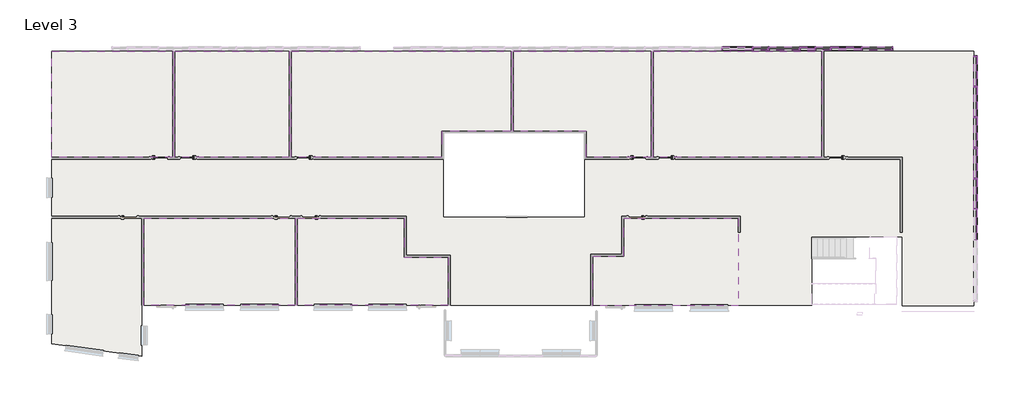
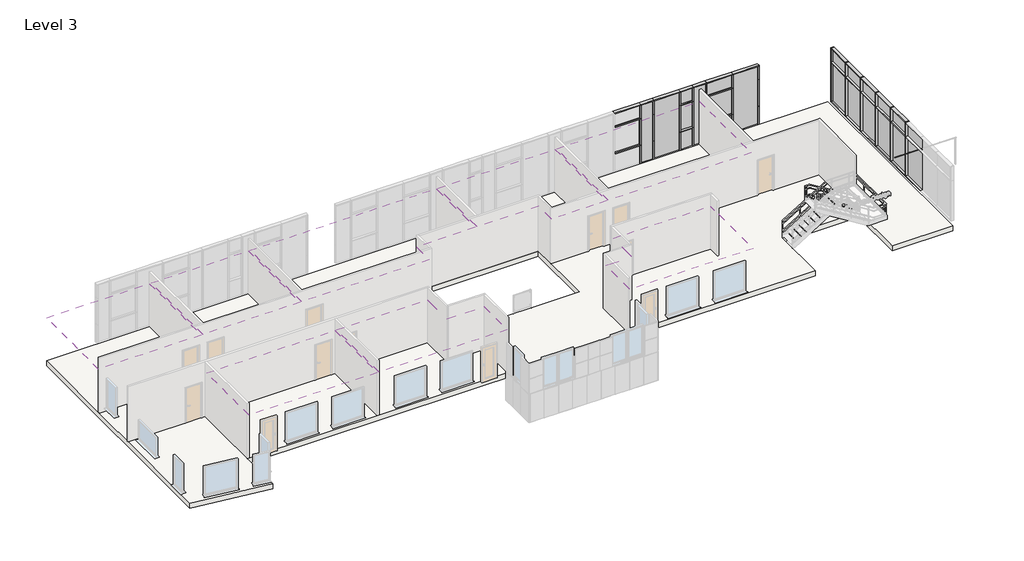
# One storey, part 4 of 7: 62 members, 22 plates, 8 coverings, 1 slab.
"""IFC4 building model written with IfcOpenShell, lengths in millimetres."""

from ifc_helpers import new_model, si_unit, frame, origin, place, context, project, spatial, polyline, outline, extrude, transform, mapped, element, save
from components import rectangular_mullion_50x180mm_27940352, rectangular_mullion_50x180mm_f781141c, rectangular_mullion_50x180mm_fd91253e, rectangular_mullion_50x180mm_cfc9efda, rectangular_mullion_50x180mm_c30fec06, rectangular_mullion_50x180mm_55b63a96, rectangular_mullion_50x180mm_95299f7d, rectangular_mullion_50x180mm_7153291d, rectangular_mullion_50x180mm_cd79a6a2, rectangular_mullion_50x180mm_b21090a6, rectangular_mullion_50x180mm_bfae1b57, rectangular_mullion_50x180mm_1c28dd9e, rectangular_mullion_50x180mm_1be9a22b, rectangular_mullion_50x180mm_9c6cddf7, rectangular_mullion_50x180mm_ee9895d7, rectangular_mullion_50x180mm_6af64579, rectangular_mullion_50x180mm_418feb2d, rectangular_mullion_50x180mm_9c451c64, rectangular_mullion_50x180mm_3562f263, system_panel_black_panel_b553a8d2, system_panel_dark_grey_panel_97f951a3, system_panel_dark_grey_panel_4b19a003, system_panel_glazed_dd63f223, system_panel_glazed_4915e1a0, system_panel_glazed_206f5d08, system_panel_glazed_7f1c0332, system_panel_glazed_28d323ef, system_panel_glazed_0488a078, system_panel_glazed_324ac287, system_panel_glazed_37b19665, system_panel_white_panel_6a64f577, system_panel_white_panel_a9ca731a, system_panel_white_panel_dc489aa2, system_panel_white_panel_659cbcf8

model = new_model("IFC4")

# Units and contexts
model_context = context("Model", 3, world=origin())
ifc_project = project(units=[si_unit("LENGTHUNIT", "METRE", prefix="MILLI")], contexts=[model_context])

# Site, building, storey
site = spatial("IfcSite", under=ifc_project)
building = spatial("IfcBuilding", under=site)
storey = spatial("IfcBuildingStorey", under=building, Name="Level 3", Elevation=11000.0)

# Coverings
placement = place(None, origin())
element("IfcCovering", 1, ObjectType="600x600mm_Grid", at=placement, inside=storey, context=model_context, shape_type="SweptSolid", body=[
    extrude(outline(polyline([(-1429.2223222, 3884.8025486), (-1429.2223222, 9007.4946591), (4433.2942367, 9007.4946591), (4433.2942367, 3884.8025486), (-1429.2223222, 3884.8025486)])), frame((0.0, 0.0, 13600.0), z_axis=(0.0, 0.0, 1.0), x_axis=(1.0, 0.0, 0.0)), (0.0, 0.0, 1.0), 52.0),
])
element("IfcCovering", 2, ObjectType="600x600mm_Grid", at=placement, inside=storey, context=model_context, shape_type="SweptSolid", body=[
    extrude(outline(polyline([(4528.2942367, 9007.4946591), (10058.2942367, 9007.4946591), (10058.2942367, 3884.8025486), (4528.2942367, 3884.8025486), (4528.2942367, 9007.4946591)])), frame((0.0, 0.0, 13600.0), z_axis=(0.0, 0.0, 1.0), x_axis=(1.0, 0.0, 0.0)), (0.0, 0.0, 1.0), 52.0),
])
element("IfcCovering", 3, ObjectType="600x600mm_Grid", at=placement, inside=storey, context=model_context, shape_type="SweptSolid", body=[
    extrude(outline(polyline([(10153.2942367, 9007.4946591), (20770.7942367, 9007.4946591), (20770.7942367, 5143.5025486), (17410.7942367, 5143.5025486), (17410.7942367, 3884.8025486), (10153.2942367, 3884.8025486), (10153.2942367, 9007.4946591)])), frame((0.0, 0.0, 13600.0), z_axis=(0.0, 0.0, 1.0), x_axis=(1.0, 0.0, 0.0)), (0.0, 0.0, 1.0), 52.0),
])
element("IfcCovering", 4, ObjectType="600x600mm_Grid", at=placement, inside=storey, context=model_context, shape_type="SweptSolid", body=[
    extrude(outline(polyline([(20865.7942367, 9007.4946591), (27533.2942367, 9007.4946591), (27533.2942367, 3884.8025486), (24393.2942367, 3884.8025486), (24393.2942367, 5143.5025486), (20865.7942367, 5143.5025486), (20865.7942367, 9007.4946591)])), frame((0.0, 0.0, 13600.0), z_axis=(0.0, 0.0, 1.0), x_axis=(1.0, 0.0, 0.0)), (0.0, 0.0, 1.0), 52.0),
])
element("IfcCovering", 5, ObjectType="600x600mm_Grid", at=placement, inside=storey, context=model_context, shape_type="SweptSolid", body=[
    extrude(outline(polyline([(27628.2942367, 9007.4946591), (35770.7942367, 9007.4946591), (35770.7942367, 3884.8025486), (27628.2942367, 3884.8025486), (27628.2942367, 9007.4946591)])), frame((0.0, 0.0, 13600.0), z_axis=(0.0, 0.0, 1.0), x_axis=(1.0, 0.0, 0.0)), (0.0, 0.0, 1.0), 52.0),
])
element("IfcCovering", 6, ObjectType="600x600mm_Grid", at=placement, inside=storey, context=model_context, shape_type="SweptSolid", body=[
    extrude(outline(polyline([(31736.4942371, 149.3025492), (31736.4942371, -3285.0053409), (24710.7942367, -3285.0053409), (24710.7942367, -895.6472731), (26193.2942367, -895.6472731), (26193.2942367, 939.9946591), (31736.4942371, 939.9946591), (31736.4942371, 149.3025492)])), frame((0.0, 0.0, 13600.0), z_axis=(0.0, 0.0, 1.0), x_axis=(1.0, 0.0, 0.0)), (0.0, 0.0, 1.0), 52.0),
])
element("IfcCovering", 7, ObjectType="600x600mm_Grid", at=placement, inside=storey, context=model_context, shape_type="SweptSolid", body=[
    extrude(outline(polyline([(17735.7942367, -3259.5053409), (10430.7942367, -3259.5053409), (10430.7942367, 939.9946591), (15610.7942367, 939.9946591), (15610.7942367, -955.0053409), (17735.7942367, -955.0053409), (17735.7942367, -3259.5053409)])), frame((0.0, 0.0, 13600.0), z_axis=(0.0, 0.0, 1.0), x_axis=(1.0, 0.0, 0.0)), (0.0, 0.0, 1.0), 52.0),
])
element("IfcCovering", 8, ObjectType="600x600mm_Grid", at=placement, inside=storey, context=model_context, shape_type="SweptSolid", body=[
    extrude(outline(polyline([(10335.7942367, 939.9946591), (10335.7942367, -3259.5053409), (3030.7942367, -3259.5053409), (3030.7942367, 939.9946591), (10335.7942367, 939.9946591)])), frame((0.0, 0.0, 13600.0), z_axis=(0.0, 0.0, 1.0), x_axis=(1.0, 0.0, 0.0)), (0.0, 0.0, 1.0), 52.0),
])

# Members
rectangular_mullion_50x180mm_shape = rectangular_mullion_50x180mm_27940352(model_context)
element("IfcMember", 9, ObjectType="Rectangular Mullion : 50x180mm", at=placement, inside=storey, context=model_context, shape_type="MappedRepresentation", body=[
    mapped(rectangular_mullion_50x180mm_shape, transform((37693.2942367, 9132.4946591, 11000.0), x_axis=(1.0, 0.0, 0.0), y_axis=(0.0, -1.0, 0.0), z_axis=(0.0, 0.0, -1.0))),
])
element("IfcMember", 10, ObjectType="Rectangular Mullion : 50x180mm", at=placement, inside=storey, context=model_context, shape_type="MappedRepresentation", body=[
    mapped(rectangular_mullion_50x180mm_shape, transform((36193.2942367, 9132.4946591, 11000.0), x_axis=(1.0, 0.0, 0.0), y_axis=(0.0, -1.0, 0.0), z_axis=(0.0, 0.0, -1.0))),
])
element("IfcMember", 11, ObjectType="Rectangular Mullion : 50x180mm", at=placement, inside=storey, context=model_context, shape_type="MappedRepresentation", body=[
    mapped(rectangular_mullion_50x180mm_shape, transform((35443.2942367, 9132.4946591, 11000.0), x_axis=(1.0, 0.0, 0.0), y_axis=(0.0, -1.0, 0.0), z_axis=(0.0, 0.0, -1.0))),
])
element("IfcMember", 12, ObjectType="Rectangular Mullion : 50x180mm", at=placement, inside=storey, context=model_context, shape_type="MappedRepresentation", body=[
    mapped(rectangular_mullion_50x180mm_shape, transform((34693.2942367, 9132.4946591, 11000.0), x_axis=(1.0, 0.0, 0.0), y_axis=(0.0, -1.0, 0.0), z_axis=(0.0, 0.0, -1.0))),
])
element("IfcMember", 13, ObjectType="Rectangular Mullion : 50x180mm", at=placement, inside=storey, context=model_context, shape_type="MappedRepresentation", body=[
    mapped(rectangular_mullion_50x180mm_shape, transform((32443.2942367, 9132.4946591, 11000.0), x_axis=(1.0, 0.0, 0.0), y_axis=(0.0, -1.0, 0.0), z_axis=(0.0, 0.0, -1.0))),
])
element("IfcMember", 14, ObjectType="Rectangular Mullion : 50x180mm", at=placement, inside=storey, context=model_context, shape_type="MappedRepresentation", body=[
    mapped(rectangular_mullion_50x180mm_shape, transform((33193.2942367, 9132.4946591, 11000.0), x_axis=(1.0, 0.0, 0.0), y_axis=(0.0, -1.0, 0.0), z_axis=(0.0, 0.0, -1.0))),
])
rectangular_mullion_50x180mm_2_shape = rectangular_mullion_50x180mm_f781141c(model_context)
element("IfcMember", 15, ObjectType="Rectangular Mullion : 50x180mm", at=placement, inside=storey, context=model_context, shape_type="MappedRepresentation", body=[
    mapped(rectangular_mullion_50x180mm_2_shape, transform((32443.2942367, 9132.4946591, 12100.0), x_axis=(1.0, 0.0, 0.0), y_axis=(0.0, -1.0, 0.0), z_axis=(0.0, 0.0, -1.0))),
])
element("IfcMember", 16, ObjectType="Rectangular Mullion : 50x180mm", at=placement, inside=storey, context=model_context, shape_type="MappedRepresentation", body=[
    mapped(rectangular_mullion_50x180mm_2_shape, transform((34693.2942367, 9132.4946591, 12100.0), x_axis=(1.0, 0.0, 0.0), y_axis=(0.0, -1.0, 0.0), z_axis=(0.0, 0.0, -1.0))),
])
element("IfcMember", 17, ObjectType="Rectangular Mullion : 50x180mm", at=placement, inside=storey, context=model_context, shape_type="MappedRepresentation", body=[
    mapped(rectangular_mullion_50x180mm_2_shape, transform((35443.2942367, 9132.4946591, 12100.0), x_axis=(1.0, 0.0, 0.0), y_axis=(0.0, -1.0, 0.0), z_axis=(0.0, 0.0, -1.0))),
])
element("IfcMember", 18, ObjectType="Rectangular Mullion : 50x180mm", at=placement, inside=storey, context=model_context, shape_type="MappedRepresentation", body=[
    mapped(rectangular_mullion_50x180mm_2_shape, transform((36193.2942367, 9132.4946591, 12100.0), x_axis=(1.0, 0.0, 0.0), y_axis=(0.0, -1.0, 0.0), z_axis=(0.0, 0.0, -1.0))),
])
element("IfcMember", 19, ObjectType="Rectangular Mullion : 50x180mm", at=placement, inside=storey, context=model_context, shape_type="MappedRepresentation", body=[
    mapped(rectangular_mullion_50x180mm_2_shape, transform((37693.2942367, 9132.4946591, 12100.0), x_axis=(1.0, 0.0, 0.0), y_axis=(0.0, -1.0, 0.0), z_axis=(0.0, 0.0, -1.0))),
])
element("IfcMember", 20, ObjectType="Rectangular Mullion : 50x180mm", at=placement, inside=storey, context=model_context, shape_type="MappedRepresentation", body=[
    mapped(rectangular_mullion_50x180mm_2_shape, transform((33193.2942367, 9132.4946591, 12100.0), x_axis=(1.0, 0.0, 0.0), y_axis=(0.0, -1.0, 0.0), z_axis=(0.0, 0.0, -1.0))),
])
rectangular_mullion_50x180mm_3_shape = rectangular_mullion_50x180mm_fd91253e(model_context)
element("IfcMember", 21, ObjectType="Rectangular Mullion : 50x180mm", at=placement, inside=storey, context=model_context, shape_type="MappedRepresentation", body=[
    mapped(rectangular_mullion_50x180mm_3_shape, transform((37668.2942367, 9132.4946591, 12100.0), x_axis=(0.0, 0.0, 1.0), y_axis=(0.0, -1.0, 0.0), z_axis=(1.0, 0.0, 0.0))),
])
element("IfcMember", 22, ObjectType="Rectangular Mullion : 50x180mm", at=placement, inside=storey, context=model_context, shape_type="MappedRepresentation", body=[
    mapped(rectangular_mullion_50x180mm_3_shape, transform((37668.2942367, 9132.4946591, 13700.0), x_axis=(0.0, 0.0, 1.0), y_axis=(0.0, -1.0, 0.0), z_axis=(1.0, 0.0, 0.0))),
])
element("IfcMember", 23, ObjectType="Rectangular Mullion : 50x180mm", at=placement, inside=storey, context=model_context, shape_type="MappedRepresentation", body=[
    mapped(rectangular_mullion_50x180mm_3_shape, transform((32418.2942367, 9132.4946591, 12100.0), x_axis=(0.0, 0.0, 1.0), y_axis=(0.0, -1.0, 0.0), z_axis=(1.0, 0.0, 0.0))),
])
element("IfcMember", 24, ObjectType="Rectangular Mullion : 50x180mm", at=placement, inside=storey, context=model_context, shape_type="MappedRepresentation", body=[
    mapped(rectangular_mullion_50x180mm_3_shape, transform((32418.2942367, 9132.4946591, 13700.0), x_axis=(0.0, 0.0, 1.0), y_axis=(0.0, -1.0, 0.0), z_axis=(1.0, 0.0, 0.0))),
])
rectangular_mullion_50x180mm_4_shape = rectangular_mullion_50x180mm_cfc9efda(model_context)
element("IfcMember", 25, ObjectType="Rectangular Mullion : 50x180mm", at=placement, inside=storey, context=model_context, shape_type="MappedRepresentation", body=[
    mapped(rectangular_mullion_50x180mm_4_shape, transform((35418.2942367, 9132.4946591, 13700.0), x_axis=(0.0, 0.0, 1.0), y_axis=(0.0, -1.0, 0.0), z_axis=(1.0, 0.0, 0.0))),
])
element("IfcMember", 26, ObjectType="Rectangular Mullion : 50x180mm", at=placement, inside=storey, context=model_context, shape_type="MappedRepresentation", body=[
    mapped(rectangular_mullion_50x180mm_4_shape, transform((35418.2942367, 9132.4946591, 12100.0), x_axis=(0.0, 0.0, 1.0), y_axis=(0.0, -1.0, 0.0), z_axis=(1.0, 0.0, 0.0))),
])
rectangular_mullion_50x180mm_5_shape = rectangular_mullion_50x180mm_c30fec06(model_context)
element("IfcMember", 27, ObjectType="Rectangular Mullion : 50x180mm", at=placement, inside=storey, context=model_context, shape_type="MappedRepresentation", body=[
    mapped(rectangular_mullion_50x180mm_5_shape, transform((32443.2942367, 9132.4946591, 14550.0), x_axis=(0.0, 0.0, 1.0), y_axis=(0.0, -1.0, 0.0), z_axis=(1.0, 0.0, 0.0))),
])
element("IfcMember", 28, ObjectType="Rectangular Mullion : 50x180mm", at=placement, inside=storey, context=model_context, shape_type="MappedRepresentation", body=[
    mapped(rectangular_mullion_50x180mm_5_shape, transform((34693.2942367, 9132.4946591, 14550.0), x_axis=(0.0, 0.0, 1.0), y_axis=(0.0, -1.0, 0.0), z_axis=(1.0, 0.0, 0.0))),
])
element("IfcMember", 29, ObjectType="Rectangular Mullion : 50x180mm", at=placement, inside=storey, context=model_context, shape_type="MappedRepresentation", body=[
    mapped(rectangular_mullion_50x180mm_5_shape, transform((37693.2942367, 9132.4946591, 14550.0), x_axis=(0.0, 0.0, 1.0), y_axis=(0.0, -1.0, 0.0), z_axis=(1.0, 0.0, 0.0))),
])
rectangular_mullion_50x180mm_6_shape = rectangular_mullion_50x180mm_55b63a96(model_context)
element("IfcMember", 30, ObjectType="Rectangular Mullion : 50x180mm", at=placement, inside=storey, context=model_context, shape_type="MappedRepresentation", body=[
    mapped(rectangular_mullion_50x180mm_6_shape, transform((33193.2942367, 9132.4946591, 14550.0), x_axis=(0.0, 0.0, 1.0), y_axis=(0.0, -1.0, 0.0), z_axis=(1.0, 0.0, 0.0))),
])
element("IfcMember", 31, ObjectType="Rectangular Mullion : 50x180mm", at=placement, inside=storey, context=model_context, shape_type="MappedRepresentation", body=[
    mapped(rectangular_mullion_50x180mm_6_shape, transform((35443.2942367, 9132.4946591, 14550.0), x_axis=(0.0, 0.0, 1.0), y_axis=(0.0, -1.0, 0.0), z_axis=(1.0, 0.0, 0.0))),
])
element("IfcMember", 32, ObjectType="Rectangular Mullion : 50x180mm", at=placement, inside=storey, context=model_context, shape_type="MappedRepresentation", body=[
    mapped(rectangular_mullion_50x180mm_6_shape, transform((36193.2942367, 9132.4946591, 14550.0), x_axis=(0.0, 0.0, 1.0), y_axis=(0.0, -1.0, 0.0), z_axis=(1.0, 0.0, 0.0))),
])
element("IfcMember", 33, ObjectType="Rectangular Mullion : 50x180mm", at=placement, inside=storey, context=model_context, shape_type="MappedRepresentation", body=[
    mapped(rectangular_mullion_50x180mm_5_shape, transform((39193.2942367, 9132.4946591, 14550.0), x_axis=(0.0, 0.0, 1.0), y_axis=(0.0, -1.0, 0.0), z_axis=(1.0, 0.0, 0.0))),
])
rectangular_mullion_50x180mm_7_shape = rectangular_mullion_50x180mm_95299f7d(model_context)
element("IfcMember", 34, ObjectType="Rectangular Mullion : 50x180mm", at=placement, inside=storey, context=model_context, shape_type="MappedRepresentation", body=[
    mapped(rectangular_mullion_50x180mm_7_shape, transform((39193.2942367, 9132.4946591, 12100.0), x_axis=(1.0, 0.0, 0.0), y_axis=(0.0, -1.0, 0.0), z_axis=(0.0, 0.0, -1.0))),
])
rectangular_mullion_50x180mm_8_shape = rectangular_mullion_50x180mm_7153291d(model_context)
element("IfcMember", 35, ObjectType="Rectangular Mullion : 50x180mm", at=placement, inside=storey, context=model_context, shape_type="MappedRepresentation", body=[
    mapped(rectangular_mullion_50x180mm_8_shape, transform((39193.2942367, 9132.4946591, 11000.0), x_axis=(1.0, 0.0, 0.0), y_axis=(0.0, -1.0, 0.0), z_axis=(0.0, 0.0, -1.0))),
])
rectangular_mullion_50x180mm_9_shape = rectangular_mullion_50x180mm_cd79a6a2(model_context)
element("IfcMember", 36, ObjectType="Rectangular Mullion : 50x180mm", at=placement, inside=storey, context=model_context, shape_type="MappedRepresentation", body=[
    mapped(rectangular_mullion_50x180mm_9_shape, transform((43193.2942367, 7289.6821589, 11150.0), x_axis=(0.0, -1.0, 0.0), y_axis=(-1.0, 0.0, 0.0), z_axis=(0.0, 0.0, -1.0))),
])
element("IfcMember", 37, ObjectType="Rectangular Mullion : 50x180mm", at=placement, inside=storey, context=model_context, shape_type="MappedRepresentation", body=[
    mapped(rectangular_mullion_50x180mm_9_shape, transform((43193.2942367, 5806.869659, 11150.0), x_axis=(0.0, -1.0, 0.0), y_axis=(-1.0, 0.0, 0.0), z_axis=(0.0, 0.0, -1.0))),
])
element("IfcMember", 38, ObjectType="Rectangular Mullion : 50x180mm", at=placement, inside=storey, context=model_context, shape_type="MappedRepresentation", body=[
    mapped(rectangular_mullion_50x180mm_9_shape, transform((43193.2942367, 4324.0571591, 11150.0), x_axis=(0.0, -1.0, 0.0), y_axis=(-1.0, 0.0, 0.0), z_axis=(0.0, 0.0, -1.0))),
])
element("IfcMember", 39, ObjectType="Rectangular Mullion : 50x180mm", at=placement, inside=storey, context=model_context, shape_type="MappedRepresentation", body=[
    mapped(rectangular_mullion_50x180mm_9_shape, transform((43193.2942367, 2841.2446591, 11150.0), x_axis=(0.0, -1.0, 0.0), y_axis=(-1.0, 0.0, 0.0), z_axis=(0.0, 0.0, -1.0))),
])
element("IfcMember", 40, ObjectType="Rectangular Mullion : 50x180mm", at=placement, inside=storey, context=model_context, shape_type="MappedRepresentation", body=[
    mapped(rectangular_mullion_50x180mm_9_shape, transform((43193.2942367, 1358.4321592, 11150.0), x_axis=(0.0, -1.0, 0.0), y_axis=(-1.0, 0.0, 0.0), z_axis=(0.0, 0.0, -1.0))),
])
rectangular_mullion_50x180mm_10_shape = rectangular_mullion_50x180mm_b21090a6(model_context)
element("IfcMember", 41, ObjectType="Rectangular Mullion : 50x180mm", at=placement, inside=storey, context=model_context, shape_type="MappedRepresentation", body=[
    mapped(rectangular_mullion_50x180mm_10_shape, transform((43193.2942367, 8772.4946591, 13550.0), x_axis=(0.0, 1.0, 0.0), y_axis=(-1.0, 0.0, 0.0), z_axis=(0.0, 0.0, 1.0))),
])
rectangular_mullion_50x180mm_11_shape = rectangular_mullion_50x180mm_bfae1b57(model_context)
element("IfcMember", 42, ObjectType="Rectangular Mullion : 50x180mm", at=placement, inside=storey, context=model_context, shape_type="MappedRepresentation", body=[
    mapped(rectangular_mullion_50x180mm_11_shape, transform((34693.2942367, 9132.4946591, 13700.0), x_axis=(1.0, 0.0, 0.0), y_axis=(0.0, -1.0, 0.0), z_axis=(0.0, 0.0, -1.0))),
])
element("IfcMember", 43, ObjectType="Rectangular Mullion : 50x180mm", at=placement, inside=storey, context=model_context, shape_type="MappedRepresentation", body=[
    mapped(rectangular_mullion_50x180mm_11_shape, transform((35443.2942367, 9132.4946591, 13700.0), x_axis=(1.0, 0.0, 0.0), y_axis=(0.0, -1.0, 0.0), z_axis=(0.0, 0.0, -1.0))),
])
element("IfcMember", 44, ObjectType="Rectangular Mullion : 50x180mm", at=placement, inside=storey, context=model_context, shape_type="MappedRepresentation", body=[
    mapped(rectangular_mullion_50x180mm_11_shape, transform((36193.2942367, 9132.4946591, 13700.0), x_axis=(1.0, 0.0, 0.0), y_axis=(0.0, -1.0, 0.0), z_axis=(0.0, 0.0, -1.0))),
])
element("IfcMember", 45, ObjectType="Rectangular Mullion : 50x180mm", at=placement, inside=storey, context=model_context, shape_type="MappedRepresentation", body=[
    mapped(rectangular_mullion_50x180mm_11_shape, transform((37693.2942367, 9132.4946591, 13700.0), x_axis=(1.0, 0.0, 0.0), y_axis=(0.0, -1.0, 0.0), z_axis=(0.0, 0.0, -1.0))),
])
element("IfcMember", 46, ObjectType="Rectangular Mullion : 50x180mm", at=placement, inside=storey, context=model_context, shape_type="MappedRepresentation", body=[
    mapped(rectangular_mullion_50x180mm_11_shape, transform((32443.2942367, 9132.4946591, 13700.0), x_axis=(1.0, 0.0, 0.0), y_axis=(0.0, -1.0, 0.0), z_axis=(0.0, 0.0, -1.0))),
])
element("IfcMember", 47, ObjectType="Rectangular Mullion : 50x180mm", at=placement, inside=storey, context=model_context, shape_type="MappedRepresentation", body=[
    mapped(rectangular_mullion_50x180mm_11_shape, transform((33193.2942367, 9132.4946591, 13700.0), x_axis=(1.0, 0.0, 0.0), y_axis=(0.0, -1.0, 0.0), z_axis=(0.0, 0.0, -1.0))),
])
rectangular_mullion_50x180mm_12_shape = rectangular_mullion_50x180mm_1c28dd9e(model_context)
element("IfcMember", 48, ObjectType="Rectangular Mullion : 50x180mm", at=placement, inside=storey, context=model_context, shape_type="MappedRepresentation", body=[
    mapped(rectangular_mullion_50x180mm_12_shape, transform((39193.2942367, 9132.4946591, 13700.0), x_axis=(1.0, 0.0, 0.0), y_axis=(0.0, -1.0, 0.0), z_axis=(0.0, 0.0, -1.0))),
])
rectangular_mullion_50x180mm_13_shape = rectangular_mullion_50x180mm_1be9a22b(model_context)
element("IfcMember", 49, ObjectType="Rectangular Mullion : 50x180mm", at=placement, inside=storey, context=model_context, shape_type="MappedRepresentation", body=[
    mapped(rectangular_mullion_50x180mm_13_shape, transform((43193.2942367, 7314.6821589, 14415.0), x_axis=(0.0, 0.0, 1.0), y_axis=(-1.0, 0.0, 0.0), z_axis=(0.0, -1.0, 0.0))),
])
rectangular_mullion_50x180mm_14_shape = rectangular_mullion_50x180mm_9c6cddf7(model_context)
element("IfcMember", 50, ObjectType="Rectangular Mullion : 50x180mm", at=placement, inside=storey, context=model_context, shape_type="MappedRepresentation", body=[
    mapped(rectangular_mullion_50x180mm_14_shape, transform((43193.2942367, 5831.869659, 14415.0), x_axis=(0.0, 0.0, 1.0), y_axis=(-1.0, 0.0, 0.0), z_axis=(0.0, -1.0, 0.0))),
])
element("IfcMember", 51, ObjectType="Rectangular Mullion : 50x180mm", at=placement, inside=storey, context=model_context, shape_type="MappedRepresentation", body=[
    mapped(rectangular_mullion_50x180mm_14_shape, transform((43193.2942367, 4349.0571591, 14415.0), x_axis=(0.0, 0.0, 1.0), y_axis=(-1.0, 0.0, 0.0), z_axis=(0.0, -1.0, 0.0))),
])
element("IfcMember", 52, ObjectType="Rectangular Mullion : 50x180mm", at=placement, inside=storey, context=model_context, shape_type="MappedRepresentation", body=[
    mapped(rectangular_mullion_50x180mm_14_shape, transform((43193.2942367, 2866.2446591, 14415.0), x_axis=(0.0, 0.0, 1.0), y_axis=(-1.0, 0.0, 0.0), z_axis=(0.0, -1.0, 0.0))),
])
element("IfcMember", 53, ObjectType="Rectangular Mullion : 50x180mm", at=placement, inside=storey, context=model_context, shape_type="MappedRepresentation", body=[
    mapped(rectangular_mullion_50x180mm_14_shape, transform((43193.2942367, 1383.4321592, 14415.0), x_axis=(0.0, 0.0, 1.0), y_axis=(-1.0, 0.0, 0.0), z_axis=(0.0, -1.0, 0.0))),
])
element("IfcMember", 54, ObjectType="Rectangular Mullion : 50x180mm", at=placement, inside=storey, context=model_context, shape_type="MappedRepresentation", body=[
    mapped(rectangular_mullion_50x180mm_13_shape, transform((43193.2942367, 8722.4946591, 11150.0), x_axis=(0.0, 0.0, -1.0), y_axis=(-1.0, 0.0, 0.0), z_axis=(0.0, 1.0, 0.0))),
])
element("IfcMember", 55, ObjectType="Rectangular Mullion : 50x180mm", at=placement, inside=storey, context=model_context, shape_type="MappedRepresentation", body=[
    mapped(rectangular_mullion_50x180mm_14_shape, transform((43193.2942367, 7264.6821589, 11150.0), x_axis=(0.0, 0.0, -1.0), y_axis=(-1.0, 0.0, 0.0), z_axis=(0.0, 1.0, 0.0))),
])
element("IfcMember", 56, ObjectType="Rectangular Mullion : 50x180mm", at=placement, inside=storey, context=model_context, shape_type="MappedRepresentation", body=[
    mapped(rectangular_mullion_50x180mm_14_shape, transform((43193.2942367, 5781.869659, 11150.0), x_axis=(0.0, 0.0, -1.0), y_axis=(-1.0, 0.0, 0.0), z_axis=(0.0, 1.0, 0.0))),
])
element("IfcMember", 57, ObjectType="Rectangular Mullion : 50x180mm", at=placement, inside=storey, context=model_context, shape_type="MappedRepresentation", body=[
    mapped(rectangular_mullion_50x180mm_14_shape, transform((43193.2942367, 4299.0571591, 11150.0), x_axis=(0.0, 0.0, -1.0), y_axis=(-1.0, 0.0, 0.0), z_axis=(0.0, 1.0, 0.0))),
])
element("IfcMember", 58, ObjectType="Rectangular Mullion : 50x180mm", at=placement, inside=storey, context=model_context, shape_type="MappedRepresentation", body=[
    mapped(rectangular_mullion_50x180mm_14_shape, transform((43193.2942367, 2816.2446591, 11150.0), x_axis=(0.0, 0.0, -1.0), y_axis=(-1.0, 0.0, 0.0), z_axis=(0.0, 1.0, 0.0))),
])
rectangular_mullion_50x180mm_15_shape = rectangular_mullion_50x180mm_ee9895d7(model_context)
element("IfcMember", 59, ObjectType="Rectangular Mullion : 50x180mm", at=placement, inside=storey, context=model_context, shape_type="MappedRepresentation", body=[
    mapped(rectangular_mullion_50x180mm_15_shape, transform((43193.2942367, 1333.4321592, 11150.0), x_axis=(0.0, 0.0, -1.0), y_axis=(-1.0, 0.0, 0.0), z_axis=(0.0, 1.0, 0.0))),
])
rectangular_mullion_50x180mm_16_shape = rectangular_mullion_50x180mm_6af64579(model_context)
element("IfcMember", 60, ObjectType="Rectangular Mullion : 50x180mm", at=placement, inside=storey, context=model_context, shape_type="MappedRepresentation", body=[
    mapped(rectangular_mullion_50x180mm_16_shape, transform((43193.2942367, 7314.6821589, 13550.0), x_axis=(0.0, 0.0, 1.0), y_axis=(-1.0, 0.0, 0.0), z_axis=(0.0, -1.0, 0.0))),
])
rectangular_mullion_50x180mm_17_shape = rectangular_mullion_50x180mm_418feb2d(model_context)
element("IfcMember", 61, ObjectType="Rectangular Mullion : 50x180mm", at=placement, inside=storey, context=model_context, shape_type="MappedRepresentation", body=[
    mapped(rectangular_mullion_50x180mm_17_shape, transform((43193.2942367, 5831.869659, 13550.0), x_axis=(0.0, 0.0, 1.0), y_axis=(-1.0, 0.0, 0.0), z_axis=(0.0, -1.0, 0.0))),
])
element("IfcMember", 62, ObjectType="Rectangular Mullion : 50x180mm", at=placement, inside=storey, context=model_context, shape_type="MappedRepresentation", body=[
    mapped(rectangular_mullion_50x180mm_17_shape, transform((43193.2942367, 4349.0571591, 13550.0), x_axis=(0.0, 0.0, 1.0), y_axis=(-1.0, 0.0, 0.0), z_axis=(0.0, -1.0, 0.0))),
])
element("IfcMember", 63, ObjectType="Rectangular Mullion : 50x180mm", at=placement, inside=storey, context=model_context, shape_type="MappedRepresentation", body=[
    mapped(rectangular_mullion_50x180mm_17_shape, transform((43193.2942367, 2866.2446591, 13550.0), x_axis=(0.0, 0.0, 1.0), y_axis=(-1.0, 0.0, 0.0), z_axis=(0.0, -1.0, 0.0))),
])
element("IfcMember", 64, ObjectType="Rectangular Mullion : 50x180mm", at=placement, inside=storey, context=model_context, shape_type="MappedRepresentation", body=[
    mapped(rectangular_mullion_50x180mm_17_shape, transform((43193.2942367, 1383.4321592, 13550.0), x_axis=(0.0, 0.0, 1.0), y_axis=(-1.0, 0.0, 0.0), z_axis=(0.0, -1.0, 0.0))),
])
rectangular_mullion_50x180mm_18_shape = rectangular_mullion_50x180mm_9c451c64(model_context)
element("IfcMember", 65, ObjectType="Rectangular Mullion : 50x180mm", at=placement, inside=storey, context=model_context, shape_type="MappedRepresentation", body=[
    mapped(rectangular_mullion_50x180mm_18_shape, transform((43193.2942367, 7289.6821589, 13550.0), x_axis=(0.0, -1.0, 0.0), y_axis=(-1.0, 0.0, 0.0), z_axis=(0.0, 0.0, -1.0))),
])
element("IfcMember", 66, ObjectType="Rectangular Mullion : 50x180mm", at=placement, inside=storey, context=model_context, shape_type="MappedRepresentation", body=[
    mapped(rectangular_mullion_50x180mm_18_shape, transform((43193.2942367, 5806.869659, 13550.0), x_axis=(0.0, -1.0, 0.0), y_axis=(-1.0, 0.0, 0.0), z_axis=(0.0, 0.0, -1.0))),
])
element("IfcMember", 67, ObjectType="Rectangular Mullion : 50x180mm", at=placement, inside=storey, context=model_context, shape_type="MappedRepresentation", body=[
    mapped(rectangular_mullion_50x180mm_18_shape, transform((43193.2942367, 4324.0571591, 13550.0), x_axis=(0.0, -1.0, 0.0), y_axis=(-1.0, 0.0, 0.0), z_axis=(0.0, 0.0, -1.0))),
])
element("IfcMember", 68, ObjectType="Rectangular Mullion : 50x180mm", at=placement, inside=storey, context=model_context, shape_type="MappedRepresentation", body=[
    mapped(rectangular_mullion_50x180mm_18_shape, transform((43193.2942367, 2841.2446591, 13550.0), x_axis=(0.0, -1.0, 0.0), y_axis=(-1.0, 0.0, 0.0), z_axis=(0.0, 0.0, -1.0))),
])
element("IfcMember", 69, ObjectType="Rectangular Mullion : 50x180mm", at=placement, inside=storey, context=model_context, shape_type="MappedRepresentation", body=[
    mapped(rectangular_mullion_50x180mm_18_shape, transform((43193.2942367, 1358.4321592, 13550.0), x_axis=(0.0, -1.0, 0.0), y_axis=(-1.0, 0.0, 0.0), z_axis=(0.0, 0.0, -1.0))),
])
rectangular_mullion_50x180mm_19_shape = rectangular_mullion_50x180mm_3562f263(model_context)
element("IfcMember", 70, ObjectType="Rectangular Mullion : 50x180mm", at=placement, inside=storey, context=model_context, shape_type="MappedRepresentation", body=[
    mapped(rectangular_mullion_50x180mm_19_shape, transform((43193.2942367, 8772.4946591, 14415.0), x_axis=(0.0, 1.0, 0.0), y_axis=(-1.0, 0.0, 0.0), z_axis=(0.0, 0.0, 1.0))),
])

# Plates
system_panel_black_panel_shape = system_panel_black_panel_b553a8d2(model_context)
element("IfcPlate", 71, ObjectType="System Panel : Black-Panel", at=placement, inside=storey, context=model_context, shape_type="MappedRepresentation", body=[
    mapped(system_panel_black_panel_shape, transform((35818.2942367, 9132.4946591, 11000.0), x_axis=(1.0, 0.0, 0.0), y_axis=(0.0, 1.0, 0.0), z_axis=(0.0, 0.0, 1.0))),
])
element("IfcPlate", 72, ObjectType="System Panel : Black-Panel", at=placement, inside=storey, context=model_context, shape_type="MappedRepresentation", body=[
    mapped(system_panel_black_panel_shape, transform((32818.2942367, 9132.4946591, 11000.0), x_axis=(1.0, 0.0, 0.0), y_axis=(0.0, 1.0, 0.0), z_axis=(0.0, 0.0, 1.0))),
])
system_panel_dark_grey_panel_shape = system_panel_dark_grey_panel_97f951a3(model_context)
element("IfcPlate", 73, ObjectType="System Panel : Dark Grey-Panel", at=placement, inside=storey, context=model_context, shape_type="MappedRepresentation", body=[
    mapped(system_panel_dark_grey_panel_shape, transform((38430.7942367, 9132.4946591, 11000.0), x_axis=(1.0, 0.0, 0.0), y_axis=(0.0, 1.0, 0.0), z_axis=(0.0, 0.0, 1.0))),
])
system_panel_dark_grey_panel_2_shape = system_panel_dark_grey_panel_4b19a003(model_context)
element("IfcPlate", 74, ObjectType="System Panel : Dark Grey-Panel", at=placement, inside=storey, context=model_context, shape_type="MappedRepresentation", body=[
    mapped(system_panel_dark_grey_panel_2_shape, transform((33943.2942367, 9132.4946591, 11000.0), x_axis=(1.0, 0.0, 0.0), y_axis=(0.0, 1.0, 0.0), z_axis=(0.0, 0.0, 1.0))),
])
system_panel_glazed_shape = system_panel_glazed_dd63f223(model_context)
element("IfcPlate", 75, ObjectType="System Panel : Glazed", at=placement, inside=storey, context=model_context, shape_type="MappedRepresentation", body=[
    mapped(system_panel_glazed_shape, transform((35068.2942367, 9132.4946591, 12125.0), x_axis=(1.0, 0.0, 0.0), y_axis=(0.0, 1.0, 0.0), z_axis=(0.0, 0.0, 1.0))),
])
system_panel_glazed_2_shape = system_panel_glazed_4915e1a0(model_context)
element("IfcPlate", 76, ObjectType="System Panel : Glazed", at=placement, inside=storey, context=model_context, shape_type="MappedRepresentation", body=[
    mapped(system_panel_glazed_2_shape, transform((36943.2942367, 9132.4946591, 12125.0), x_axis=(1.0, 0.0, 0.0), y_axis=(0.0, 1.0, 0.0), z_axis=(0.0, 0.0, 1.0))),
])
system_panel_glazed_3_shape = system_panel_glazed_206f5d08(model_context)
element("IfcPlate", 77, ObjectType="System Panel : Glazed", at=placement, inside=storey, context=model_context, shape_type="MappedRepresentation", body=[
    mapped(system_panel_glazed_3_shape, transform((43193.2942367, 8018.588409, 11200.0), x_axis=(0.0, -1.0, 0.0), y_axis=(1.0, 0.0, 0.0), z_axis=(0.0, 0.0, 1.0))),
])
system_panel_glazed_4_shape = system_panel_glazed_7f1c0332(model_context)
element("IfcPlate", 78, ObjectType="System Panel : Glazed", at=placement, inside=storey, context=model_context, shape_type="MappedRepresentation", body=[
    mapped(system_panel_glazed_4_shape, transform((43193.2942367, 6548.275909, 11200.0), x_axis=(0.0, -1.0, 0.0), y_axis=(1.0, 0.0, 0.0), z_axis=(0.0, 0.0, 1.0))),
])
element("IfcPlate", 79, ObjectType="System Panel : Glazed", at=placement, inside=storey, context=model_context, shape_type="MappedRepresentation", body=[
    mapped(system_panel_glazed_4_shape, transform((43193.2942367, 5065.463409, 11200.0), x_axis=(0.0, -1.0, 0.0), y_axis=(1.0, 0.0, 0.0), z_axis=(0.0, 0.0, 1.0))),
])
element("IfcPlate", 80, ObjectType="System Panel : Glazed", at=placement, inside=storey, context=model_context, shape_type="MappedRepresentation", body=[
    mapped(system_panel_glazed_4_shape, transform((43193.2942367, 3582.6509091, 11200.0), x_axis=(0.0, -1.0, 0.0), y_axis=(1.0, 0.0, 0.0), z_axis=(0.0, 0.0, 1.0))),
])
element("IfcPlate", 81, ObjectType="System Panel : Glazed", at=placement, inside=storey, context=model_context, shape_type="MappedRepresentation", body=[
    mapped(system_panel_glazed_4_shape, transform((43193.2942367, 2099.8384092, 11200.0), x_axis=(0.0, -1.0, 0.0), y_axis=(1.0, 0.0, 0.0), z_axis=(0.0, 0.0, 1.0))),
])
system_panel_glazed_5_shape = system_panel_glazed_28d323ef(model_context)
element("IfcPlate", 82, ObjectType="System Panel : Glazed", at=placement, inside=storey, context=model_context, shape_type="MappedRepresentation", body=[
    mapped(system_panel_glazed_5_shape, transform((43193.2942367, 604.5259093, 11200.0), x_axis=(0.0, -1.0, 0.0), y_axis=(1.0, 0.0, 0.0), z_axis=(0.0, 0.0, 1.0))),
])
system_panel_glazed_6_shape = system_panel_glazed_0488a078(model_context)
element("IfcPlate", 83, ObjectType="System Panel : Glazed", at=placement, inside=storey, context=model_context, shape_type="MappedRepresentation", body=[
    mapped(system_panel_glazed_6_shape, transform((43193.2942367, 8018.588409, 13575.0), x_axis=(0.0, -1.0, 0.0), y_axis=(1.0, 0.0, 0.0), z_axis=(0.0, 0.0, 1.0))),
])
system_panel_glazed_7_shape = system_panel_glazed_324ac287(model_context)
element("IfcPlate", 84, ObjectType="System Panel : Glazed", at=placement, inside=storey, context=model_context, shape_type="MappedRepresentation", body=[
    mapped(system_panel_glazed_7_shape, transform((43193.2942367, 6548.275909, 13575.0), x_axis=(0.0, -1.0, 0.0), y_axis=(1.0, 0.0, 0.0), z_axis=(0.0, 0.0, 1.0))),
])
element("IfcPlate", 85, ObjectType="System Panel : Glazed", at=placement, inside=storey, context=model_context, shape_type="MappedRepresentation", body=[
    mapped(system_panel_glazed_7_shape, transform((43193.2942367, 5065.463409, 13575.0), x_axis=(0.0, -1.0, 0.0), y_axis=(1.0, 0.0, 0.0), z_axis=(0.0, 0.0, 1.0))),
])
element("IfcPlate", 86, ObjectType="System Panel : Glazed", at=placement, inside=storey, context=model_context, shape_type="MappedRepresentation", body=[
    mapped(system_panel_glazed_7_shape, transform((43193.2942367, 3582.6509091, 13575.0), x_axis=(0.0, -1.0, 0.0), y_axis=(1.0, 0.0, 0.0), z_axis=(0.0, 0.0, 1.0))),
])
element("IfcPlate", 87, ObjectType="System Panel : Glazed", at=placement, inside=storey, context=model_context, shape_type="MappedRepresentation", body=[
    mapped(system_panel_glazed_7_shape, transform((43193.2942367, 2099.8384092, 13575.0), x_axis=(0.0, -1.0, 0.0), y_axis=(1.0, 0.0, 0.0), z_axis=(0.0, 0.0, 1.0))),
])
system_panel_glazed_8_shape = system_panel_glazed_37b19665(model_context)
element("IfcPlate", 88, ObjectType="System Panel : Glazed", at=placement, inside=storey, context=model_context, shape_type="MappedRepresentation", body=[
    mapped(system_panel_glazed_8_shape, transform((43193.2942367, 604.5259093, 13575.0), x_axis=(0.0, -1.0, 0.0), y_axis=(1.0, 0.0, 0.0), z_axis=(0.0, 0.0, 1.0))),
])
system_panel_white_panel_shape = system_panel_white_panel_6a64f577(model_context)
element("IfcPlate", 89, ObjectType="System Panel : White-Panel", at=placement, inside=storey, context=model_context, shape_type="MappedRepresentation", body=[
    mapped(system_panel_white_panel_shape, transform((36943.2942367, 9132.4946591, 11000.0), x_axis=(1.0, 0.0, 0.0), y_axis=(0.0, 1.0, 0.0), z_axis=(0.0, 0.0, 1.0))),
])
system_panel_white_panel_2_shape = system_panel_white_panel_a9ca731a(model_context)
element("IfcPlate", 90, ObjectType="System Panel : White-Panel", at=placement, inside=storey, context=model_context, shape_type="MappedRepresentation", body=[
    mapped(system_panel_white_panel_2_shape, transform((35068.2942367, 9132.4946591, 11000.0), x_axis=(1.0, 0.0, 0.0), y_axis=(0.0, 1.0, 0.0), z_axis=(0.0, 0.0, 1.0))),
])
system_panel_white_panel_3_shape = system_panel_white_panel_dc489aa2(model_context)
element("IfcPlate", 91, ObjectType="System Panel : White-Panel", at=placement, inside=storey, context=model_context, shape_type="MappedRepresentation", body=[
    mapped(system_panel_white_panel_3_shape, transform((35068.2942367, 9132.4946591, 13725.0), x_axis=(1.0, 0.0, 0.0), y_axis=(0.0, 1.0, 0.0), z_axis=(0.0, 0.0, 1.0))),
])
system_panel_white_panel_4_shape = system_panel_white_panel_659cbcf8(model_context)
element("IfcPlate", 92, ObjectType="System Panel : White-Panel", at=placement, inside=storey, context=model_context, shape_type="MappedRepresentation", body=[
    mapped(system_panel_white_panel_4_shape, transform((36943.2942367, 9132.4946591, 13725.0), x_axis=(1.0, 0.0, 0.0), y_axis=(0.0, 1.0, 0.0), z_axis=(0.0, 0.0, 1.0))),
])

# Slab
element("IfcSlab", 93, ObjectType="Flr-Int-300mm", at=placement, inside=storey, context=model_context, shape_type="SweptSolid", body=[
    extrude(outline(polyline([(43093.2942367, 9007.4946591), (43093.2942367, -3285.0053409), (39655.7942367, -3285.0053409), (39655.7942367, 41.8025492), (35285.7942367, 41.8025492), (35285.7942367, -3260.0053409), (2935.2942367, -3260.0053409), (2935.2942367, -5743.2655529), (-1429.2223222, -5129.8727526), (-1429.2223222, 9007.4946591), (43093.2942367, 9007.4946591)]), holes=[polyline([(24298.2942367, 5048.5025486), (17505.7942367, 5048.5025486), (17505.7942367, 999.3527269), (24298.2942367, 999.3527269), (24298.2942367, 5048.5025486)])]), frame((0.0, 0.0, 10700.0), z_axis=(0.0, 0.0, 1.0), x_axis=(1.0, 0.0, 0.0)), (0.0, 0.0, 1.0), 300.0),
])

save(model, "model.ifc")
